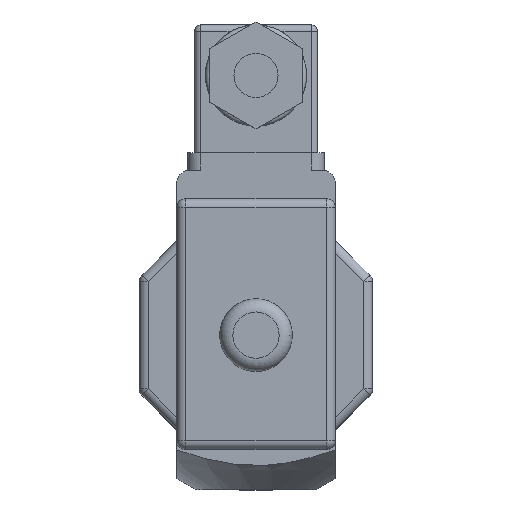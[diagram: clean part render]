
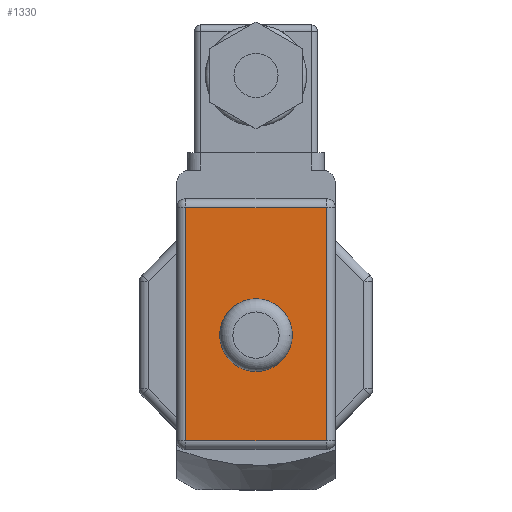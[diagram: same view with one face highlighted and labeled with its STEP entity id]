
A CAD part, top view. The second image highlights one B-rep face of the part: STEP entity #1330.
In plain terms, the highlighted planar face has unit normal (0, 0, 1).
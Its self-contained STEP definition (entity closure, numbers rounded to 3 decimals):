
#1330 = ADVANCED_FACE( '', ( #2098, #2099 ), #2100, .T. );
#2098 = FACE_OUTER_BOUND( '', #7430, .T. );
#2099 = FACE_BOUND( '', #7431, .T. );
#2100 = PLANE( '', #7432 );
#7430 = EDGE_LOOP( '', ( #9443, #9444, #9445, #9446 ) );
#7431 = EDGE_LOOP( '', ( #9447 ) );
#7432 = AXIS2_PLACEMENT_3D( '', #9448, #9449, #9450 );
#9443 = ORIENTED_EDGE( '', *, *, #10112, .T. );
#9444 = ORIENTED_EDGE( '', *, *, #10108, .T. );
#9445 = ORIENTED_EDGE( '', *, *, #10104, .T. );
#9446 = ORIENTED_EDGE( '', *, *, #10118, .T. );
#9447 = ORIENTED_EDGE( '', *, *, #10121, .T. );
#9448 = CARTESIAN_POINT( '', ( -18., 31., 48. ) );
#9449 = DIRECTION( '', ( 0., 0., 1. ) );
#9450 = DIRECTION( '', ( 1., 0., 0. ) );
#10104 = EDGE_CURVE( '', #11020, #11036, #11038, .T. );
#10108 = EDGE_CURVE( '', #11023, #11020, #11042, .T. );
#10112 = EDGE_CURVE( '', #11044, #11023, #11048, .T. );
#10118 = EDGE_CURVE( '', #11036, #11044, #11055, .T. );
#10121 = EDGE_CURVE( '', #11059, #11059, #11060, .T. );
#11020 = VERTEX_POINT( '', #12640 );
#11023 = VERTEX_POINT( '', #12643 );
#11036 = VERTEX_POINT( '', #12660 );
#11038 = LINE( '', #12662, #12663 );
#11042 = LINE( '', #12670, #12671 );
#11044 = VERTEX_POINT( '', #12674 );
#11048 = LINE( '', #12679, #12680 );
#11055 = LINE( '', #12689, #12690 );
#11059 = VERTEX_POINT( '', #12695 );
#11060 = CIRCLE( '', #12696, 7. );
#12640 = CARTESIAN_POINT( '', ( 16., 29., 48. ) );
#12643 = CARTESIAN_POINT( '', ( 16., -24., 48. ) );
#12660 = CARTESIAN_POINT( '', ( -16., 29., 48. ) );
#12662 = CARTESIAN_POINT( '', ( -18., 29., 48. ) );
#12663 = VECTOR( '', #13740, 1000. );
#12670 = CARTESIAN_POINT( '', ( 16., 31., 48. ) );
#12671 = VECTOR( '', #13744, 1000. );
#12674 = CARTESIAN_POINT( '', ( -16., -24., 48. ) );
#12679 = CARTESIAN_POINT( '', ( 18., -24., 48. ) );
#12680 = VECTOR( '', #13750, 1000. );
#12689 = CARTESIAN_POINT( '', ( -16., -26., 48. ) );
#12690 = VECTOR( '', #13762, 1000. );
#12695 = CARTESIAN_POINT( '', ( 0., -7., 48. ) );
#12696 = AXIS2_PLACEMENT_3D( '', #13767, #13768, #13769 );
#13740 = DIRECTION( '', ( -1., 0., 0. ) );
#13744 = DIRECTION( '', ( 0., 1., 0. ) );
#13750 = DIRECTION( '', ( 1., 0., 0. ) );
#13762 = DIRECTION( '', ( 0., -1., 0. ) );
#13767 = CARTESIAN_POINT( '', ( 0., 0., 48. ) );
#13768 = DIRECTION( '', ( 0., 0., -1. ) );
#13769 = DIRECTION( '', ( 0., -1., 0. ) );
